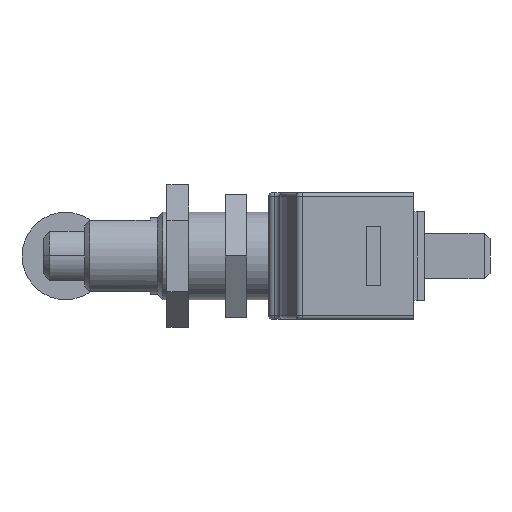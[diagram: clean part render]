
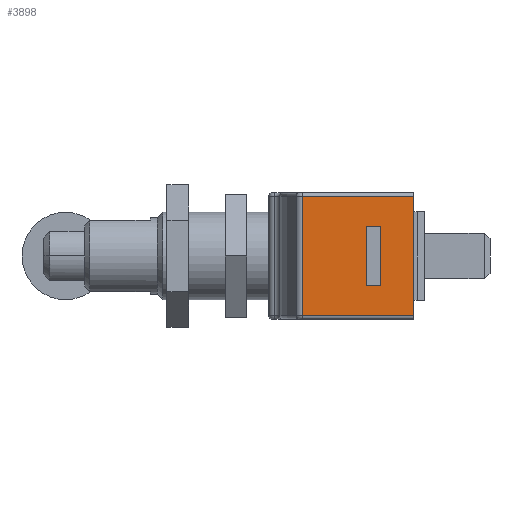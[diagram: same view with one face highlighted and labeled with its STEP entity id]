
A CAD part, left-side view. The second image highlights one B-rep face of the part: STEP entity #3898.
In plain terms, the highlighted planar face has unit normal (-1, 0, 0).
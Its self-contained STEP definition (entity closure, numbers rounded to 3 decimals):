
#3770 = ORIENTED_EDGE ( 'NONE', *, *, #3771, .T. ) ;
#3771 = EDGE_CURVE ( 'NONE', #3856, #3772, #12343, .T. ) ;
#3772 = VERTEX_POINT ( 'NONE', #12339 ) ;
#3773 = ORIENTED_EDGE ( 'NONE', *, *, #3774, .T. ) ;
#3774 = EDGE_CURVE ( 'NONE', #3772, #3871, #12338, .T. ) ;
#3815 = EDGE_LOOP ( 'NONE', ( #3816, #3820, #3823, #3849 ) ) ;
#3816 = ORIENTED_EDGE ( 'NONE', *, *, #3817, .T. ) ;
#3817 = EDGE_CURVE ( 'NONE', #3818, #3819, #12441, .T. ) ;
#3818 = VERTEX_POINT ( 'NONE', #12507 ) ;
#3819 = VERTEX_POINT ( 'NONE', #12506 ) ;
#3820 = ORIENTED_EDGE ( 'NONE', *, *, #3821, .T. ) ;
#3821 = EDGE_CURVE ( 'NONE', #3819, #3822, #12505, .T. ) ;
#3822 = VERTEX_POINT ( 'NONE', #12501 ) ;
#3823 = ORIENTED_EDGE ( 'NONE', *, *, #3847, .F. ) ;
#3847 = EDGE_CURVE ( 'NONE', #3848, #3822, #12563, .T. ) ;
#3848 = VERTEX_POINT ( 'NONE', #12559 ) ;
#3849 = ORIENTED_EDGE ( 'NONE', *, *, #3850, .T. ) ;
#3850 = EDGE_CURVE ( 'NONE', #3848, #3818, #12558, .T. ) ;
#3851 = EDGE_LOOP ( 'NONE', ( #3853, #3770, #3773, #3872 ) ) ;
#3853 = ORIENTED_EDGE ( 'NONE', *, *, #3854, .T. ) ;
#3854 = EDGE_CURVE ( 'NONE', #3855, #3856, #12553, .T. ) ;
#3855 = VERTEX_POINT ( 'NONE', #12622 ) ;
#3856 = VERTEX_POINT ( 'NONE', #12621 ) ;
#3871 = VERTEX_POINT ( 'NONE', #12663 ) ;
#3872 = ORIENTED_EDGE ( 'NONE', *, *, #3873, .T. ) ;
#3873 = EDGE_CURVE ( 'NONE', #3871, #3855, #12659, .T. ) ;
#3898 = ADVANCED_FACE ( 'NONE', ( #12719, #12718 ), #12717, .F. ) ;
#12335 = DIRECTION ( 'NONE',  ( 0., 1., 0. ) ) ;
#12336 = VECTOR ( 'NONE', #12335, 1000. ) ;
#12337 = CARTESIAN_POINT ( 'NONE',  ( -35.2, 2.7, -4.1 ) ) ;
#12338 = LINE ( 'NONE', #12337, #12336 ) ;
#12339 = CARTESIAN_POINT ( 'NONE',  ( -35.2, 0.7, -4.1 ) ) ;
#12340 = DIRECTION ( 'NONE',  ( 0., 0., -1. ) ) ;
#12341 = VECTOR ( 'NONE', #12340, 1000. ) ;
#12342 = CARTESIAN_POINT ( 'NONE',  ( -35.2, 0.7, 4.1 ) ) ;
#12343 = LINE ( 'NONE', #12342, #12341 ) ;
#12441 = LINE ( 'NONE', #12442, #12509 ) ;
#12442 = CARTESIAN_POINT ( 'NONE',  ( -35.2, 11.461, 8.7 ) ) ;
#12501 = CARTESIAN_POINT ( 'NONE',  ( -35.2, -3.8, -8.2 ) ) ;
#12502 = DIRECTION ( 'NONE',  ( 0., -1., 0. ) ) ;
#12503 = VECTOR ( 'NONE', #12502, 1000. ) ;
#12504 = CARTESIAN_POINT ( 'NONE',  ( -35.2, 11.461, -8.2 ) ) ;
#12505 = LINE ( 'NONE', #12504, #12503 ) ;
#12506 = CARTESIAN_POINT ( 'NONE',  ( -35.2, 11.461, -8.2 ) ) ;
#12507 = CARTESIAN_POINT ( 'NONE',  ( -35.2, 11.461, 8.2 ) ) ;
#12508 = DIRECTION ( 'NONE',  ( 0., 0., -1. ) ) ;
#12509 = VECTOR ( 'NONE', #12508, 1000. ) ;
#12553 = LINE ( 'NONE', #12625, #12624 ) ;
#12555 = DIRECTION ( 'NONE',  ( 0., 1., 0. ) ) ;
#12556 = VECTOR ( 'NONE', #12555, 1000. ) ;
#12557 = CARTESIAN_POINT ( 'NONE',  ( -35.2, 11.461, 8.2 ) ) ;
#12558 = LINE ( 'NONE', #12557, #12556 ) ;
#12559 = CARTESIAN_POINT ( 'NONE',  ( -35.2, -3.8, 8.2 ) ) ;
#12560 = DIRECTION ( 'NONE',  ( 0., 0., -1. ) ) ;
#12561 = VECTOR ( 'NONE', #12560, 1000. ) ;
#12562 = CARTESIAN_POINT ( 'NONE',  ( -35.2, -3.8, 8.7 ) ) ;
#12563 = LINE ( 'NONE', #12562, #12561 ) ;
#12621 = CARTESIAN_POINT ( 'NONE',  ( -35.2, 0.7, 4.1 ) ) ;
#12622 = CARTESIAN_POINT ( 'NONE',  ( -35.2, 2.7, 4.1 ) ) ;
#12623 = DIRECTION ( 'NONE',  ( 0., -1., 0. ) ) ;
#12624 = VECTOR ( 'NONE', #12623, 1000. ) ;
#12625 = CARTESIAN_POINT ( 'NONE',  ( -35.2, 2.7, 4.1 ) ) ;
#12656 = DIRECTION ( 'NONE',  ( 0., 0., 1. ) ) ;
#12657 = VECTOR ( 'NONE', #12656, 1000. ) ;
#12658 = CARTESIAN_POINT ( 'NONE',  ( -35.2, 2.7, 4.1 ) ) ;
#12659 = LINE ( 'NONE', #12658, #12657 ) ;
#12663 = CARTESIAN_POINT ( 'NONE',  ( -35.2, 2.7, -4.1 ) ) ;
#12713 = DIRECTION ( 'NONE',  ( 0., 0., -1. ) ) ;
#12714 = DIRECTION ( 'NONE',  ( 1., 0., 0. ) ) ;
#12715 = CARTESIAN_POINT ( 'NONE',  ( -35.2, 11.461, 8.7 ) ) ;
#12716 = AXIS2_PLACEMENT_3D ( 'NONE', #12715, #12714, #12713 ) ;
#12717 = PLANE ( 'NONE',  #12716 ) ;
#12718 = FACE_BOUND ( 'NONE', #3851, .T. ) ;
#12719 = FACE_OUTER_BOUND ( 'NONE', #3815, .T. ) ;
